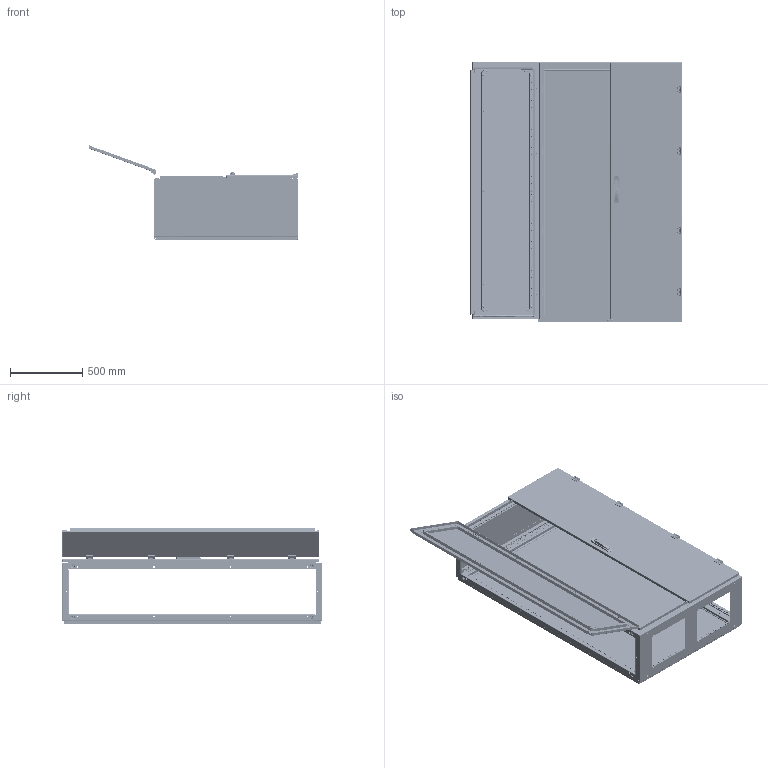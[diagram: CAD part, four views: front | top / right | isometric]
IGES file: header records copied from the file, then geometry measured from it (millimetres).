
Start section: SolidWorks IGES file using analytic representation for surfaces
Global section: file name: U:\14_RD\05_Technical_office\04_Office\Hrdinova\3D modely - IGES\Distri\QA181004.IGS; native system: SolidWorks 2011; preprocessor: SolidWorks 2011; author: adhrja3; date: 170612.083221; units: millimetre
Bounding box: 1468.78 x 1804.5 x 662.7 mm (x, y, z)
Surface area: 14675329.6 mm2 (no closed solid volume)
Topology: 0 solids, 0 shells, 8464 faces, 142492 edges, 142210 vertices
Faces by surface type: bspline 4490, revolution 3974
